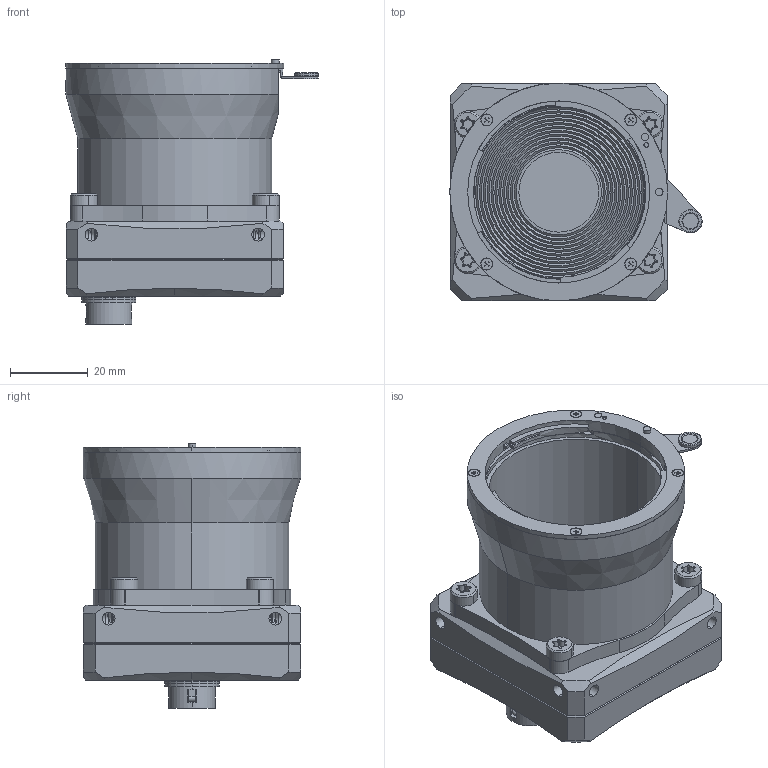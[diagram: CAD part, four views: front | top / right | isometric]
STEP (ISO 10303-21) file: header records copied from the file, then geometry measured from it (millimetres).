
FILE_DESCRIPTION (( 'STEP AP214' ), '1' );
FILE_NAME ('Celera_F-mount.STEP', '2020-07-14T08:41:47', ( '' ), ( '' ), 'SwSTEP 2.0', 'SolidWorks 2019', '' );
FILE_SCHEMA (( 'AUTOMOTIVE_DESIGN' ));
Length unit declared in the file: millimetre
Products named in the file (10): F-mount; Rear_mec_shell; Usb; Front_Mec_shell; Vite_M2; Celera_F-mount; Light_pipe; I-O; Vite_M4_M4 x 08; Filtro
Assembly tree (17 placements, depth 2):
  Celera_F-mount
    Front_Mec_shell
    Rear_mec_shell
    Usb  x2
    I-O
    Filtro
    Vite_M2  x4
    Vite_M4_M4 x 08  x4
    Light_pipe  x2
    F-mount
Bounding box: 65.1 x 56.2 x 68.2 mm (x, y, z)
Volume: 80041.7 mm3; surface area: 42276.5 mm2
Topology: 25 solids, 25 shells, 1979 faces, 4909 edges, 3043 vertices
Faces by surface type: plane 1005, cylinder 580, cone 344, torus 38, bspline 12
Entity records: 51206 total; most frequent: CARTESIAN_POINT 8827, DIRECTION 7296, ORIENTED_EDGE 6814, EDGE_CURVE 3407, AXIS2_PLACEMENT_3D 2665, VERTEX_POINT 2133, LINE 1966, VECTOR 1966
